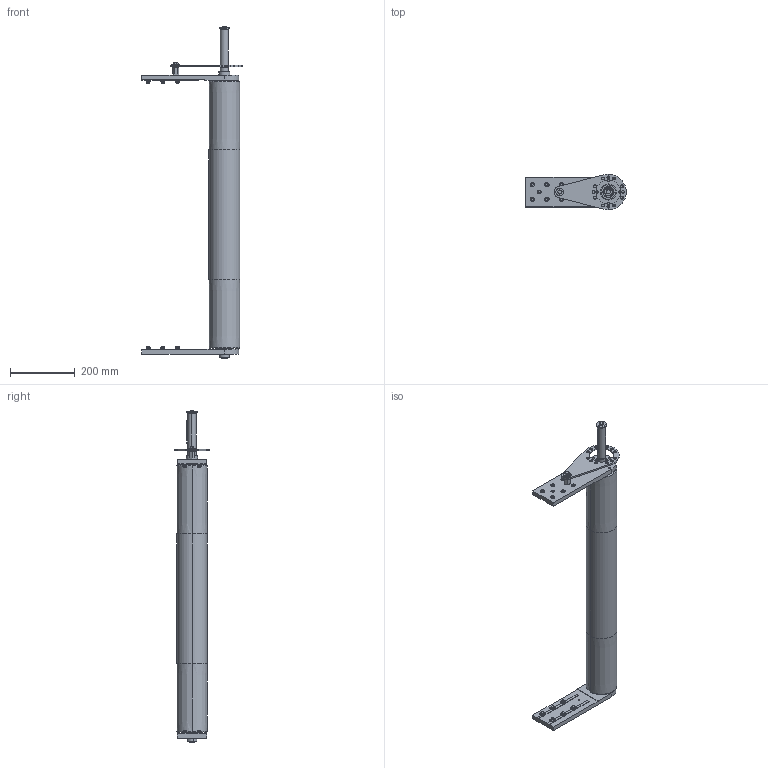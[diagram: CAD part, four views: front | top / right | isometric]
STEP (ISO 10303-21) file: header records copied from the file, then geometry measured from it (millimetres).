
FILE_DESCRIPTION (( 'STEP AP203' ), '1' );
FILE_NAME ('084.095.KD.63.800.STEP', '2019-07-30T07:20:48', ( '' ), ( '' ), 'SwSTEP 2.0', 'SolidWorks 2018', '' );
FILE_SCHEMA (( 'CONFIG_CONTROL_DESIGN' ));
Length unit declared in the file: millimetre
Products named in the file (20): VITI TE UNI 5739_M8x20 UNI 5739; 084.802.019_084.802.019; 084.812.004; 084.302.000 DADI ALUSIC 13x13_084.302.004; 084.816.112_084.816.107<A macchina>; 084.802.034_084.802.034; GRANI A PUNTA PIATTA UNI 5923_M8x25 UNI 5923; RONDELLE FASCIA LARGA UNI 6593_8.4x24 UNI 6593; 084.802.027; 084.808.005-1; CHIAVETTE_A 8x7x20 UNI 6604-69; 084.301.000 VITI ALUSIC_084.301.003; 084.095.KD.63.800; 084.808.003_084.808.003; 084.810.003; 084.812.003; CHIAVETTE_A 8x7x70 UNI 6604-69; circlip for shafts normal_din_PreviewCfg; RONDELLE FASCIA LARGA UNI 6593_8.4x32 UNI 6593; 084.808.002_084.808.002
Assembly tree (45 placements, depth 2):
  084.095.KD.63.800
    084.808.005-1
    084.802.027
    084.812.004
    084.802.034_084.802.034
    084.301.000 VITI ALUSIC_084.301.003  x12
    084.302.000 DADI ALUSIC 13x13_084.302.004  x12
    084.816.112_084.816.107<A macchina>
    084.812.003
    084.808.003_084.808.003
    084.808.002_084.808.002
    084.810.003  x2
    084.802.019_084.802.019
    CHIAVETTE_A 8x7x70 UNI 6604-69
    circlip for shafts normal_din_PreviewCfg  x3
    GRANI A PUNTA PIATTA UNI 5923_M8x25 UNI 5923
    VITI TE UNI 5739_M8x20 UNI 5739  x2
    RONDELLE FASCIA LARGA UNI 6593_8.4x24 UNI 6593
    CHIAVETTE_A 8x7x20 UNI 6604-69
    RONDELLE FASCIA LARGA UNI 6593_8.4x32 UNI 6593
Bounding box: 310 x 110 x 1025.33 mm (x, y, z)
Volume: 2496498.3 mm3; surface area: 1088734.8 mm2
Topology: 50 solids, 51 shells, 1119 faces, 2773 edges, 1799 vertices
Faces by surface type: plane 497, cylinder 379, cone 94, torus 92, bspline 48, sphere 9
Entity records: 24116 total; most frequent: CARTESIAN_POINT 4684, DIRECTION 3610, ORIENTED_EDGE 3358, EDGE_CURVE 1679, AXIS2_PLACEMENT_3D 1424, VERTEX_POINT 1092, EDGE_LOOP 805, VECTOR 762
